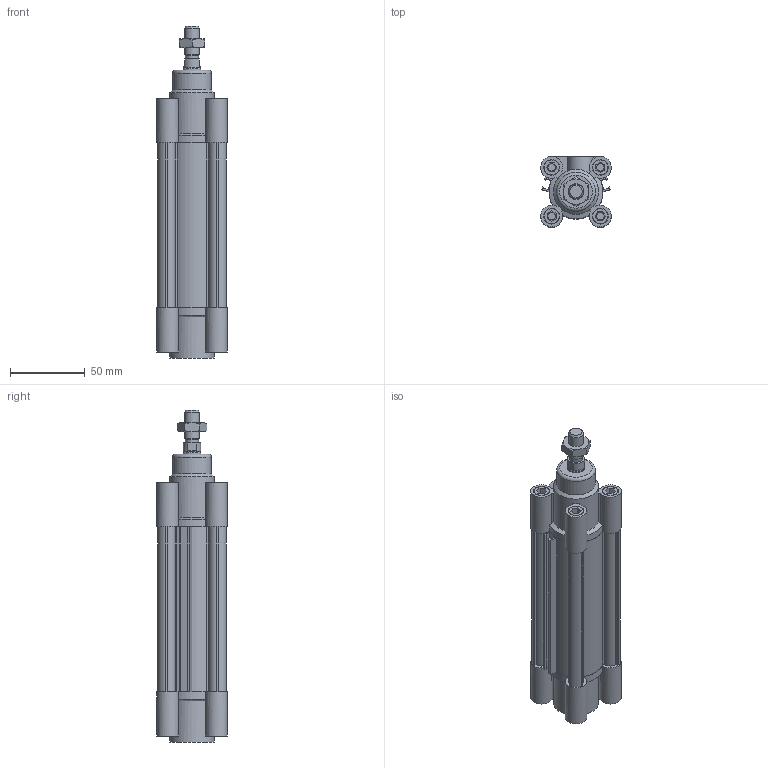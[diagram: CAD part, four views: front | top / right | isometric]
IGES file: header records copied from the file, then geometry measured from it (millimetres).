
Global section: file name: No Iges File Name specified; native system: Autodesk Inventor 2012; preprocessor: AutoDesk Inventor Iges Exporter R2012; author: pilonfr1; date: 20120128.095006; units: millimetre
Bounding box: 47 x 47 x 221.5 mm (x, y, z)
Volume: 202469.2 mm3; surface area: 93170.4 mm2
Topology: 5 solids, 5 shells, 316 faces, 788 edges, 522 vertices
Faces by surface type: plane 200, cylinder 54, revolution 39, cone 22, torus 1
Full cylindrical faces by diameter (mm): 8.8 x1, 10 x9, 11.5 x1, 12 x1, 26 x1, 30 x2, 32 x3
